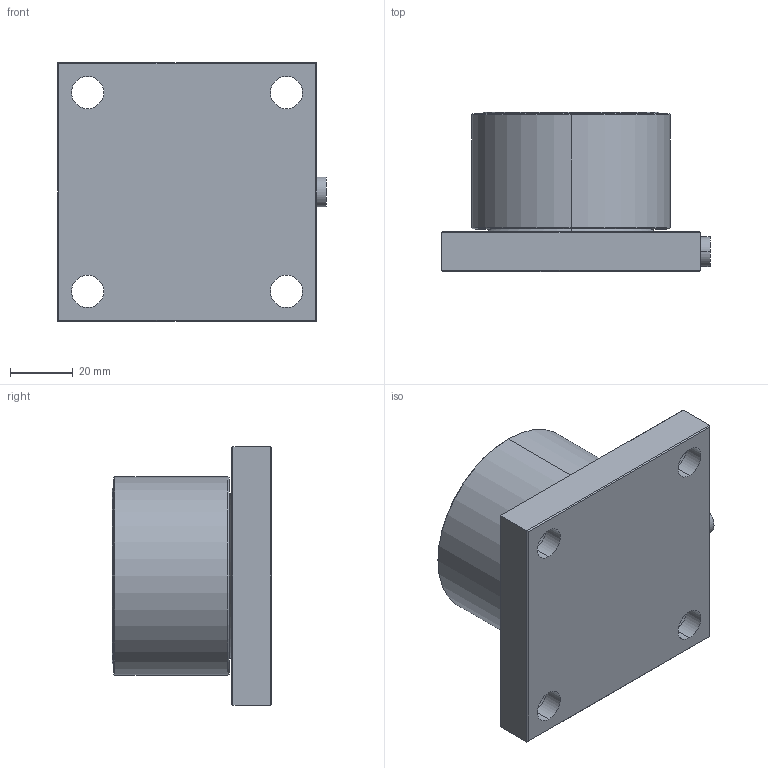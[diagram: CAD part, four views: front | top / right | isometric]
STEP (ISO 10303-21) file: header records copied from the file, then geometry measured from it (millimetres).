
FILE_DESCRIPTION (( 'STEP AP214' ), '1' );
FILE_NAME ('SS1307-1KLB.STEP', '2024-08-23T17:56:27', ( '' ), ( '' ), 'SwSTEP 2.0', 'SolidWorks 2008', '' );
FILE_SCHEMA (( 'AUTOMOTIVE_DESIGN' ));
Length unit declared in the file: inch
Products named in the file (1): SS1307-1KLB
Bounding box: 85.72 x 50.8 x 82.55 mm (x, y, z)
Volume: 195986.6 mm3; surface area: 30795.1 mm2
Topology: 1 solids, 1 shells, 74 faces, 164 edges, 96 vertices
Faces by surface type: cylinder 28, cone 22, plane 22, torus 2
Entity records: 2029 total; most frequent: DIRECTION 384, CARTESIAN_POINT 327, ORIENTED_EDGE 312, EDGE_CURVE 156, AXIS2_PLACEMENT_3D 153, VERTEX_POINT 96, EDGE_LOOP 94, LINE 78
